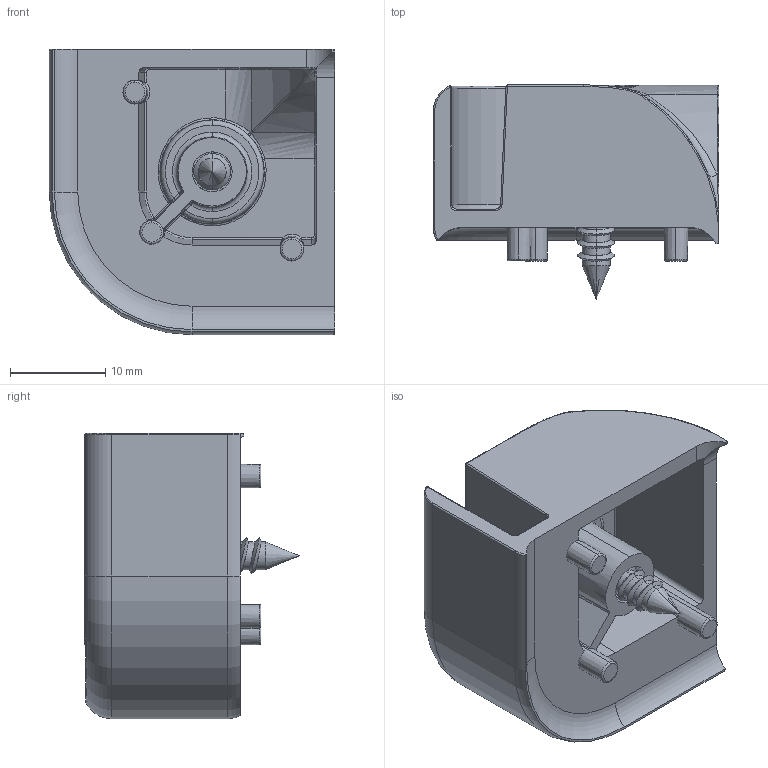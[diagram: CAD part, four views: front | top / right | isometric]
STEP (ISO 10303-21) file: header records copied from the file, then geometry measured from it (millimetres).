
FILE_DESCRIPTION (( 'STEP AP203' ), '1' );
FILE_NAME ('013.030.123.STEP', '2020-09-28T06:43:39', ( '' ), ( '' ), 'SwSTEP 2.0', 'SolidWorks 2018', '' );
FILE_SCHEMA (( 'CONFIG_CONTROL_DESIGN' ));
Length unit declared in the file: millimetre
Products named in the file (3): VITE UNI 6954 3,9x19; 013.030.123A; 013.030.123
Assembly tree (2 placements, depth 2):
  013.030.123
    013.030.123A
    VITE UNI 6954 3,9x19
Bounding box: 30 x 22.5 x 30 mm (x, y, z)
Volume: 5843.9 mm3; surface area: 6285.2 mm2
Topology: 2 solids, 2 shells, 317 faces, 780 edges, 458 vertices
Faces by surface type: cone 73, cylinder 71, plane 68, bspline 53, torus 47, sphere 5
Entity records: 11335 total; most frequent: CARTESIAN_POINT 4158, ORIENTED_EDGE 1538, DIRECTION 1380, EDGE_CURVE 769, AXIS2_PLACEMENT_3D 578, VERTEX_POINT 458, EDGE_LOOP 321, FACE_OUTER_BOUND 317
